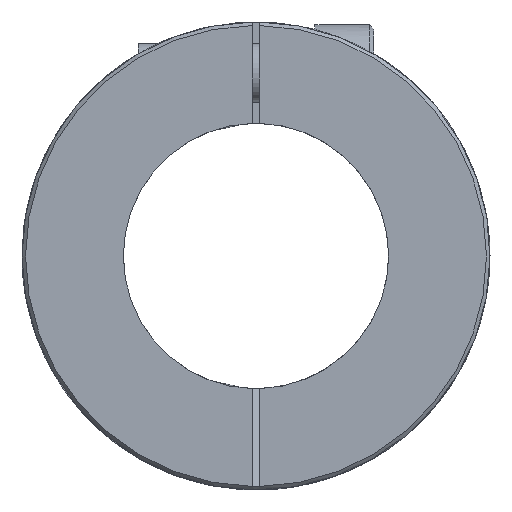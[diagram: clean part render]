
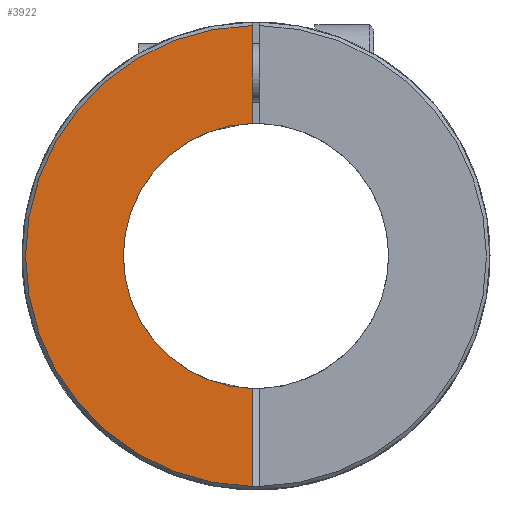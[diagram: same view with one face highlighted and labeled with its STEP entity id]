
A CAD part, front view. The second image highlights one B-rep face of the part: STEP entity #3922.
In plain terms, the highlighted planar face has unit normal (0, -1, 0).
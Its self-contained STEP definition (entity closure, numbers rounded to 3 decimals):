
#1=DIRECTION('',(0.,0.,-1.));
#2=VECTOR('',#1,13.273);
#3=CARTESIAN_POINT('',(-0.5,-75.,31.266));
#4=LINE('',#3,#2);
#5=CARTESIAN_POINT('',(0.,-75.,0.));
#6=DIRECTION('',(0.,1.,0.));
#7=DIRECTION('',(-1.,0.,0.));
#8=AXIS2_PLACEMENT_3D('',#5,#6,#7);
#10=CARTESIAN_POINT('',(0.,-75.,0.));
#11=DIRECTION('',(0.,1.,0.));
#12=DIRECTION('',(-0.028,0.,-1.));
#13=AXIS2_PLACEMENT_3D('',#10,#11,#12);
#15=DIRECTION('',(0.,0.,-1.));
#16=VECTOR('',#15,13.273);
#17=CARTESIAN_POINT('',(-0.5,-75.,-17.993));
#18=LINE('',#17,#16);
#3387=CARTESIAN_POINT('',(0.,-75.,0.));
#3388=DIRECTION('',(0.,-1.,0.));
#3389=DIRECTION('',(-0.016,0.,1.));
#3390=AXIS2_PLACEMENT_3D('',#3387,#3388,#3389);
#3551=CARTESIAN_POINT('',(-18.,-75.,0.));
#3552=VERTEX_POINT('',#3551);
#3683=CARTESIAN_POINT('',(-0.5,-75.,31.266));
#3684=CARTESIAN_POINT('',(-0.5,-75.,17.993));
#3685=VERTEX_POINT('',#3683);
#3686=VERTEX_POINT('',#3684);
#3687=CARTESIAN_POINT('',(-0.5,-75.,-17.993));
#3688=CARTESIAN_POINT('',(-0.5,-75.,-31.266));
#3689=VERTEX_POINT('',#3687);
#3690=VERTEX_POINT('',#3688);
#3905=CARTESIAN_POINT('',(0.,-75.,0.));
#3906=DIRECTION('',(0.,1.,0.));
#3907=DIRECTION('',(1.,0.,0.));
#3908=AXIS2_PLACEMENT_3D('',#3905,#3906,#3907);
#3909=PLANE('',#3908);
#3911=ORIENTED_EDGE('',*,*,#3910,.T.);
#3913=ORIENTED_EDGE('',*,*,#3912,.F.);
#3915=ORIENTED_EDGE('',*,*,#3914,.F.);
#3917=ORIENTED_EDGE('',*,*,#3916,.T.);
#3919=ORIENTED_EDGE('',*,*,#3918,.F.);
#3920=EDGE_LOOP('',(#3911,#3913,#3915,#3917,#3919));
#3921=FACE_OUTER_BOUND('',#3920,.F.);
#3922=ADVANCED_FACE('',(#3921),#3909,.F.);
#9=CIRCLE('',#8,18.);
#14=CIRCLE('',#13,18.);
#3391=CIRCLE('',#3390,31.27);
#3910=EDGE_CURVE('',#3685,#3686,#4,.T.);
#3912=EDGE_CURVE('',#3552,#3686,#9,.T.);
#3914=EDGE_CURVE('',#3689,#3552,#14,.T.);
#3916=EDGE_CURVE('',#3689,#3690,#18,.T.);
#3918=EDGE_CURVE('',#3685,#3690,#3391,.T.);
